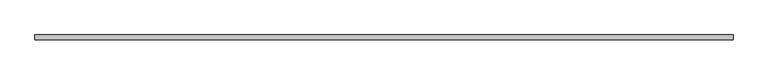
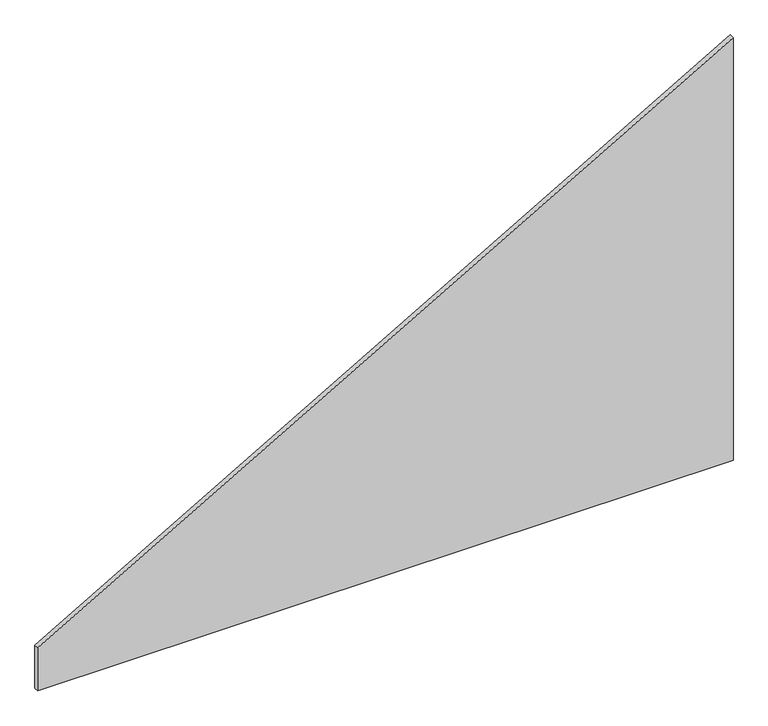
"""IFC4 building model written with IfcOpenShell, lengths in millimetres: plate geometry, 系統嵌板 : 玻璃 1.0cm."""

from ifc_helpers import new_model, si_unit, frame, origin, place, context, project, spatial, polyline, outline, extrude, source, transform, mapped, element, save


def plate_9a3058fc(model_context):
    return source(origin(), model_context, "Body", "SweptSolid", [
        extrude(outline(polyline([(0.0, -750.0), (0.0, 750.0), (964.1016151, 750.0), (98.0762114, -750.0), (0.0, -750.0)])), frame((0.0, -5.0, 0.0), z_axis=(0.0, 1.0, 0.0), x_axis=(0.0, 0.0, 1.0)), (0.0, 0.0, 1.0), 10.0),
    ])


if __name__ == "__main__":
    model = new_model("IFC4")
    model_context = context("Model", 3, world=origin())
    ifc_project = project(units=[si_unit("LENGTHUNIT", "METRE", prefix="MILLI")], contexts=[model_context])
    site = spatial("IfcSite", under=ifc_project)
    building = spatial("IfcBuilding", under=site)
    placement = place(None, origin())
    plate_shape = plate_9a3058fc(model_context)
    element("IfcPlate", 1, ObjectType="系統嵌板 : 玻璃 1.0cm", at=placement, inside=building, context=model_context, shape_type="MappedRepresentation", body=[
        mapped(plate_shape, transform((0.0, 0.0, 0.0), x_axis=(1.0, 0.0, 0.0), y_axis=(0.0, 1.0, 0.0), z_axis=(0.0, 0.0, 1.0))),
    ])
    save(model, "model.ifc")
